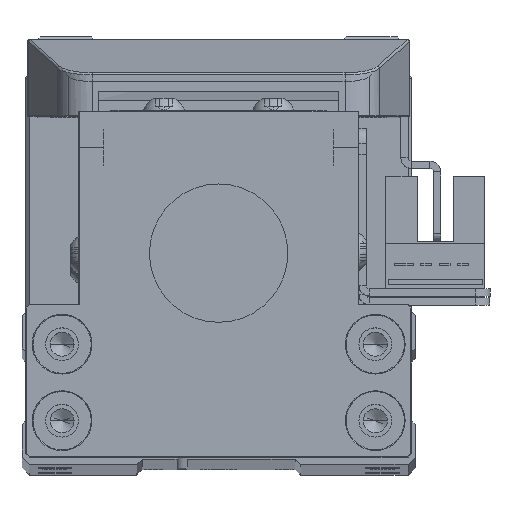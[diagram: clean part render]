
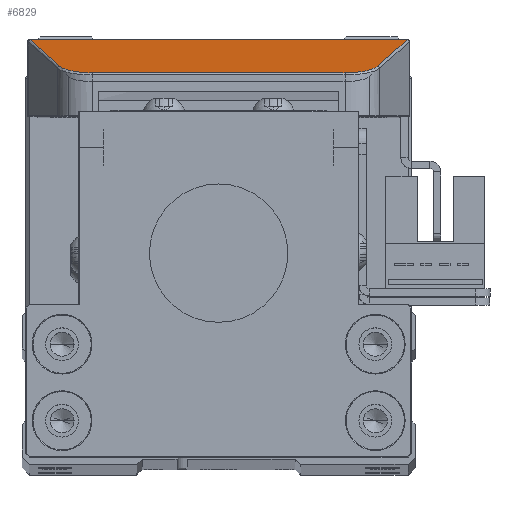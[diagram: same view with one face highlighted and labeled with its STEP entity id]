
A CAD part, top view. The second image highlights one B-rep face of the part: STEP entity #6829.
In plain terms, the highlighted planar face has unit normal (0, 0.962, 0.274) as drawn and (0, 0.274, 0.962) by its records, which use the part's own axes.
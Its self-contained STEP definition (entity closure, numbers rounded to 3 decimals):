
#474 = CARTESIAN_POINT ( 'NONE',  ( 17.344, 25.282, -4.638 ) ) ;
#1394 = DIRECTION ( 'NONE',  ( -0.293, 0.92, -0.262 ) ) ;
#2042 = DIRECTION ( 'NONE',  ( 1., 0., 0. ) ) ;
#2047 = CARTESIAN_POINT ( 'NONE',  ( -25.876, 9.269, -0.077 ) ) ;
#2581 = CARTESIAN_POINT ( 'NONE',  ( -25.87, 9.287, -0.082 ) ) ;
#2693 =( BOUNDED_CURVE ( )  B_SPLINE_CURVE ( 3, ( #13248, #28561, #15824, #474 ),
 .UNSPECIFIED., .F., .F. ) 
 B_SPLINE_CURVE_WITH_KNOTS ( ( 4, 4 ),
 ( 5.02, 6.283 ),
 .UNSPECIFIED. ) 
 CURVE ( )  GEOMETRIC_REPRESENTATION_ITEM ( )  RATIONAL_B_SPLINE_CURVE ( ( 1., 0.871, 0.871, 1. ) ) 
 REPRESENTATION_ITEM ( '' )  );
#2736 = VERTEX_POINT ( 'NONE', #4683 ) ;
#3704 = ORIENTED_EDGE ( 'NONE', *, *, #24692, .T. ) ;
#4071 = VERTEX_POINT ( 'NONE', #29332 ) ;
#4649 = VERTEX_POINT ( 'NONE', #17121 ) ;
#4683 = CARTESIAN_POINT ( 'NONE',  ( 21.823, 22.007, -3.705 ) ) ;
#4799 = CARTESIAN_POINT ( 'NONE',  ( -19.466, 25.282, -4.638 ) ) ;
#5080 = CARTESIAN_POINT ( 'NONE',  ( -25.874, 9.275, -0.078 ) ) ;
#5252 = CARTESIAN_POINT ( 'NONE',  ( 25.874, 9.275, -0.078 ) ) ;
#5606 = VERTEX_POINT ( 'NONE', #2047 ) ;
#5754 = VECTOR ( 'NONE', #11714, 1000. ) ;
#5985 = VECTOR ( 'NONE', #1394, 1000. ) ;
#6678 = EDGE_CURVE ( 'NONE', #13380, #4649, #23260, .T. ) ;
#6792 = LINE ( 'NONE', #16731, #5985 ) ;
#6829 = ADVANCED_FACE ( 'NONE', ( #10908 ), #22519, .F. ) ;
#7826 = CARTESIAN_POINT ( 'NONE',  ( 25.87, 9.287, -0.082 ) ) ;
#9726 = CARTESIAN_POINT ( 'NONE',  ( -43.406, 25.5, -4.7 ) ) ;
#9838 = DIRECTION ( 'NONE',  ( 0., -0.274, -0.962 ) ) ;
#9976 = CARTESIAN_POINT ( 'NONE',  ( -21.179, 24.03, -4.281 ) ) ;
#10009 = EDGE_CURVE ( 'NONE', #13226, #5606, #29523, .T. ) ;
#10123 = EDGE_CURVE ( 'NONE', #2736, #13380, #2693, .T. ) ;
#10908 = FACE_OUTER_BOUND ( 'NONE', #22686, .T. ) ;
#11614 = CARTESIAN_POINT ( 'NONE',  ( -22.655, 19.393, -2.96 ) ) ;
#11714 = DIRECTION ( 'NONE',  ( -0.293, -0.92, 0.262 ) ) ;
#11730 = CARTESIAN_POINT ( 'NONE',  ( -17.344, 25.282, -4.638 ) ) ;
#12122 =( BOUNDED_CURVE ( )  B_SPLINE_CURVE ( 3, ( #20540, #5252, #23107, #7826 ),
 .UNSPECIFIED., .F., .F. ) 
 B_SPLINE_CURVE_WITH_KNOTS ( ( 4, 4 ),
 ( 5.009, 5.02 ),
 .UNSPECIFIED. ) 
 CURVE ( )  GEOMETRIC_REPRESENTATION_ITEM ( )  RATIONAL_B_SPLINE_CURVE ( ( 1., 1., 1., 1. ) ) 
 REPRESENTATION_ITEM ( '' )  );
#12655 = ORIENTED_EDGE ( 'NONE', *, *, #13139, .T. ) ;
#12873 = ORIENTED_EDGE ( 'NONE', *, *, #6678, .T. ) ;
#12982 = AXIS2_PLACEMENT_3D ( 'NONE', #9726, #9838, #27693 ) ;
#13139 = EDGE_CURVE ( 'NONE', #4649, #29477, #23964, .T. ) ;
#13226 = VERTEX_POINT ( 'NONE', #2581 ) ;
#13241 = EDGE_CURVE ( 'NONE', #27800, #4071, #12122, .T. ) ;
#13248 = CARTESIAN_POINT ( 'NONE',  ( 21.823, 22.007, -3.705 ) ) ;
#13380 = VERTEX_POINT ( 'NONE', #13531 ) ;
#13531 = CARTESIAN_POINT ( 'NONE',  ( 17.344, 25.282, -4.638 ) ) ;
#14395 = ORIENTED_EDGE ( 'NONE', *, *, #10123, .T. ) ;
#15292 = CARTESIAN_POINT ( 'NONE',  ( -25.872, 9.281, -0.08 ) ) ;
#15824 = CARTESIAN_POINT ( 'NONE',  ( 19.466, 25.282, -4.638 ) ) ;
#16198 = ORIENTED_EDGE ( 'NONE', *, *, #21372, .T. ) ;
#16731 = CARTESIAN_POINT ( 'NONE',  ( 15.221, 42.754, -9.615 ) ) ;
#16777 = VECTOR ( 'NONE', #2042, 1000. ) ;
#17097 = ORIENTED_EDGE ( 'NONE', *, *, #10009, .T. ) ;
#17121 = CARTESIAN_POINT ( 'NONE',  ( -17.344, 25.282, -4.638 ) ) ;
#19328 = LINE ( 'NONE', #11614, #5754 ) ;
#20540 = CARTESIAN_POINT ( 'NONE',  ( 25.876, 9.269, -0.077 ) ) ;
#20863 = VECTOR ( 'NONE', #27029, 1000. ) ;
#21372 = EDGE_CURVE ( 'NONE', #4071, #2736, #6792, .T. ) ;
#22519 = PLANE ( 'NONE',  #12982 ) ;
#22663 = CARTESIAN_POINT ( 'NONE',  ( -17.344, 25.282, -4.638 ) ) ;
#22686 = EDGE_LOOP ( 'NONE', ( #30782, #28409, #16198, #14395, #12873, #12655, #3704, #17097 ) ) ;
#22929 = CARTESIAN_POINT ( 'NONE',  ( -25.876, 9.269, -0.077 ) ) ;
#23107 = CARTESIAN_POINT ( 'NONE',  ( 25.872, 9.281, -0.08 ) ) ;
#23260 = LINE ( 'NONE', #11730, #20863 ) ;
#23551 = LINE ( 'NONE', #30123, #16777 ) ;
#23964 =( BOUNDED_CURVE ( )  B_SPLINE_CURVE ( 3, ( #22663, #4799, #9976, #27829 ),
 .UNSPECIFIED., .F., .F. ) 
 B_SPLINE_CURVE_WITH_KNOTS ( ( 4, 4 ),
 ( 0., 1.263 ),
 .UNSPECIFIED. ) 
 CURVE ( )  GEOMETRIC_REPRESENTATION_ITEM ( )  RATIONAL_B_SPLINE_CURVE ( ( 1., 0.871, 0.871, 1. ) ) 
 REPRESENTATION_ITEM ( '' )  );
#24692 = EDGE_CURVE ( 'NONE', #29477, #13226, #19328, .T. ) ;
#26708 = CARTESIAN_POINT ( 'NONE',  ( -21.823, 22.007, -3.705 ) ) ;
#27029 = DIRECTION ( 'NONE',  ( -1., 0., 0. ) ) ;
#27693 = DIRECTION ( 'NONE',  ( 0., 0.962, -0.274 ) ) ;
#27800 = VERTEX_POINT ( 'NONE', #31103 ) ;
#27829 = CARTESIAN_POINT ( 'NONE',  ( -21.823, 22.007, -3.705 ) ) ;
#28409 = ORIENTED_EDGE ( 'NONE', *, *, #13241, .T. ) ;
#28561 = CARTESIAN_POINT ( 'NONE',  ( 21.179, 24.03, -4.281 ) ) ;
#29332 = CARTESIAN_POINT ( 'NONE',  ( 25.87, 9.287, -0.082 ) ) ;
#29477 = VERTEX_POINT ( 'NONE', #26708 ) ;
#29523 =( BOUNDED_CURVE ( )  B_SPLINE_CURVE ( 3, ( #33141, #15292, #5080, #22929 ),
 .UNSPECIFIED., .F., .F. ) 
 B_SPLINE_CURVE_WITH_KNOTS ( ( 4, 4 ),
 ( 1.263, 1.274 ),
 .UNSPECIFIED. ) 
 CURVE ( )  GEOMETRIC_REPRESENTATION_ITEM ( )  RATIONAL_B_SPLINE_CURVE ( ( 1., 1., 1., 1. ) ) 
 REPRESENTATION_ITEM ( '' )  );
#30123 = CARTESIAN_POINT ( 'NONE',  ( 26.25, 9.269, -0.077 ) ) ;
#30782 = ORIENTED_EDGE ( 'NONE', *, *, #33115, .T. ) ;
#31103 = CARTESIAN_POINT ( 'NONE',  ( 25.876, 9.269, -0.077 ) ) ;
#33115 = EDGE_CURVE ( 'NONE', #5606, #27800, #23551, .T. ) ;
#33141 = CARTESIAN_POINT ( 'NONE',  ( -25.87, 9.287, -0.082 ) ) ;
